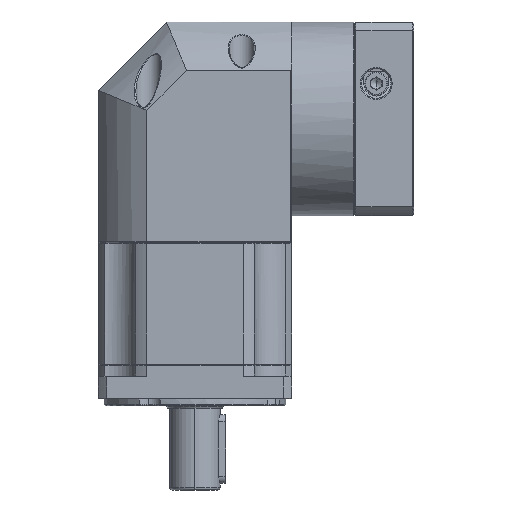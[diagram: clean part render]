
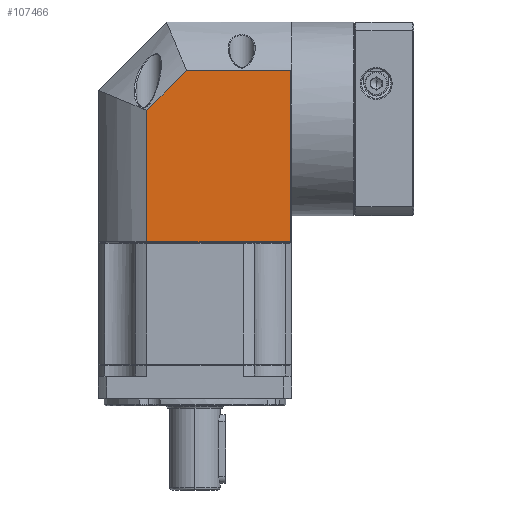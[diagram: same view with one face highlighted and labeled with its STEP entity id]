
A CAD part, front view. The second image highlights one B-rep face of the part: STEP entity #107466.
In plain terms, the highlighted planar face has unit normal (0, -1, 0).
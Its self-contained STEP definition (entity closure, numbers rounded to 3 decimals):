
#272 = DIRECTION ( 'NONE',  ( 0., 1., 0. ) ) ;
#1164 = DIRECTION ( 'NONE',  ( 1., 0., 0. ) ) ;
#5774 = AXIS2_PLACEMENT_3D ( 'NONE', #81281, #272, #94869 ) ;
#11384 = DIRECTION ( 'NONE',  ( 0., 0., 1. ) ) ;
#18647 = DIRECTION ( 'NONE',  ( 0., 0., -1. ) ) ;
#31801 = LINE ( 'NONE', #51486, #131444 ) ;
#33324 = VECTOR ( 'NONE', #18647, 1000. ) ;
#35381 = DIRECTION ( 'NONE',  ( 0.707, 0., 0.707 ) ) ;
#39717 = CARTESIAN_POINT ( 'NONE',  ( -13.734, 115.354, 21.837 ) ) ;
#42359 = VERTEX_POINT ( 'NONE', #75290 ) ;
#43430 = ORIENTED_EDGE ( 'NONE', *, *, #66558, .T. ) ;
#51486 = CARTESIAN_POINT ( 'NONE',  ( -13.734, 115.354, 60.654 ) ) ;
#56654 = CARTESIAN_POINT ( 'NONE',  ( 3.796, 115.354, 39.368 ) ) ;
#61804 = VECTOR ( 'NONE', #1164, 1000. ) ;
#63661 = DIRECTION ( 'NONE',  ( 1., 0., 0. ) ) ;
#66558 = EDGE_CURVE ( 'NONE', #42359, #146192, #97832, .T. ) ;
#66909 = CARTESIAN_POINT ( 'NONE',  ( 49.479, 115.354, 39.368 ) ) ;
#67030 = PLANE ( 'NONE',  #5774 ) ;
#68533 = CARTESIAN_POINT ( 'NONE',  ( 49.979, 115.354, -35.846 ) ) ;
#70494 = LINE ( 'NONE', #130166, #138311 ) ;
#71577 = VECTOR ( 'NONE', #63661, 1000. ) ;
#72417 = EDGE_LOOP ( 'NONE', ( #43430, #170083, #155170, #123175, #141848 ) ) ;
#75290 = CARTESIAN_POINT ( 'NONE',  ( -13.734, 115.354, -35.846 ) ) ;
#77910 = CARTESIAN_POINT ( 'NONE',  ( 49.979, 115.354, 39.368 ) ) ;
#81281 = CARTESIAN_POINT ( 'NONE',  ( 49.979, 115.354, 60.654 ) ) ;
#86062 = CARTESIAN_POINT ( 'NONE',  ( 49.479, 115.354, 60.654 ) ) ;
#89842 = CARTESIAN_POINT ( 'NONE',  ( 49.479, 115.354, -35.846 ) ) ;
#94869 = DIRECTION ( 'NONE',  ( -1., 0., 0. ) ) ;
#97270 = VERTEX_POINT ( 'NONE', #56654 ) ;
#97832 = LINE ( 'NONE', #68533, #61804 ) ;
#105338 = LINE ( 'NONE', #86062, #33324 ) ;
#107466 = ADVANCED_FACE ( 'NONE', ( #162713 ), #67030, .F. ) ;
#109263 = EDGE_CURVE ( 'NONE', #162888, #97270, #70494, .T. ) ;
#123175 = ORIENTED_EDGE ( 'NONE', *, *, #109263, .F. ) ;
#127074 = VERTEX_POINT ( 'NONE', #66909 ) ;
#128947 = EDGE_CURVE ( 'NONE', #127074, #146192, #105338, .T. ) ;
#130166 = CARTESIAN_POINT ( 'NONE',  ( -13.734, 115.354, 21.837 ) ) ;
#131444 = VECTOR ( 'NONE', #11384, 1000. ) ;
#138311 = VECTOR ( 'NONE', #35381, 1000. ) ;
#139294 = EDGE_CURVE ( 'NONE', #97270, #127074, #175449, .T. ) ;
#141848 = ORIENTED_EDGE ( 'NONE', *, *, #144592, .F. ) ;
#144592 = EDGE_CURVE ( 'NONE', #42359, #162888, #31801, .T. ) ;
#146192 = VERTEX_POINT ( 'NONE', #89842 ) ;
#155170 = ORIENTED_EDGE ( 'NONE', *, *, #139294, .F. ) ;
#162713 = FACE_OUTER_BOUND ( 'NONE', #72417, .T. ) ;
#162888 = VERTEX_POINT ( 'NONE', #39717 ) ;
#170083 = ORIENTED_EDGE ( 'NONE', *, *, #128947, .F. ) ;
#175449 = LINE ( 'NONE', #77910, #71577 ) ;
